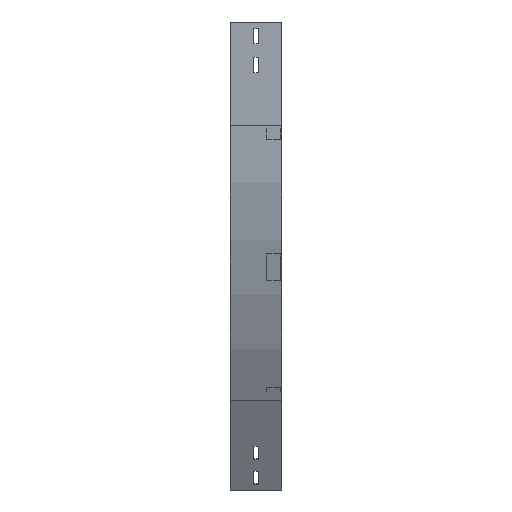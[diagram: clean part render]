
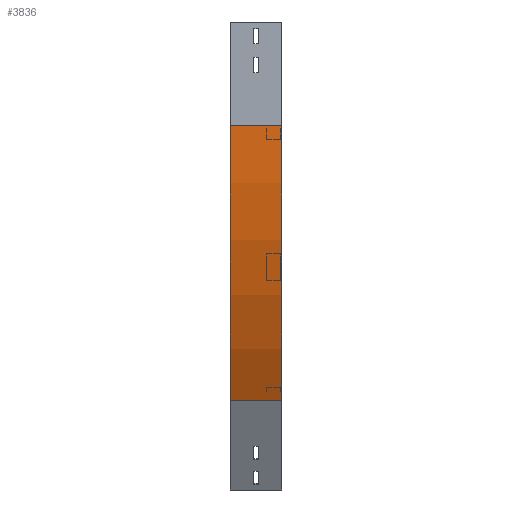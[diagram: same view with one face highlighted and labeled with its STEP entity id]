
A CAD part, left-side view. The second image highlights one B-rep face of the part: STEP entity #3836.
In plain terms, the highlighted cylindrical face has radius 800 mm (diameter 1600 mm), a partial arc.
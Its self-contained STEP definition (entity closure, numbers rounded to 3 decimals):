
#30 = CARTESIAN_POINT ( 'NONE',  ( 107.18, 75., -550. ) ) ;
#109 = VECTOR ( 'NONE', #1186, 1000. ) ;
#262 = EDGE_LOOP ( 'NONE', ( #879, #3179, #1818, #2562 ) ) ;
#455 = DIRECTION ( 'NONE',  ( -1., 0., 0. ) ) ;
#471 = CARTESIAN_POINT ( 'NONE',  ( 800., 75., -150. ) ) ;
#554 = DIRECTION ( 'NONE',  ( 0., -1., 0. ) ) ;
#598 = CARTESIAN_POINT ( 'NONE',  ( 800., 0., -150. ) ) ;
#657 = CARTESIAN_POINT ( 'NONE',  ( 0., 0., -150. ) ) ;
#658 = VERTEX_POINT ( 'NONE', #657 ) ;
#759 = VERTEX_POINT ( 'NONE', #2488 ) ;
#851 = CYLINDRICAL_SURFACE ( 'NONE', #3799, 800. ) ;
#879 = ORIENTED_EDGE ( 'NONE', *, *, #906, .F. ) ;
#906 = EDGE_CURVE ( 'NONE', #658, #759, #3051, .T. ) ;
#990 = LINE ( 'NONE', #1543, #3685 ) ;
#1072 = CARTESIAN_POINT ( 'NONE',  ( 0., 75., -150. ) ) ;
#1181 = DIRECTION ( 'NONE',  ( 0., -1., 0. ) ) ;
#1186 = DIRECTION ( 'NONE',  ( 0., -1., 0. ) ) ;
#1434 = DIRECTION ( 'NONE',  ( -1., 0., 0. ) ) ;
#1505 = CIRCLE ( 'NONE', #2680, 800. ) ;
#1543 = CARTESIAN_POINT ( 'NONE',  ( 0., 0., -150. ) ) ;
#1646 = DIRECTION ( 'NONE',  ( 0., -1., 0. ) ) ;
#1736 = AXIS2_PLACEMENT_3D ( 'NONE', #598, #1181, #1434 ) ;
#1816 = EDGE_CURVE ( 'NONE', #3130, #759, #3847, .T. ) ;
#1818 = ORIENTED_EDGE ( 'NONE', *, *, #2493, .T. ) ;
#2073 = CARTESIAN_POINT ( 'NONE',  ( 107.18, 0., -550. ) ) ;
#2110 = VERTEX_POINT ( 'NONE', #1072 ) ;
#2488 = CARTESIAN_POINT ( 'NONE',  ( 107.18, 0., -550. ) ) ;
#2493 = EDGE_CURVE ( 'NONE', #2110, #3130, #1505, .T. ) ;
#2562 = ORIENTED_EDGE ( 'NONE', *, *, #1816, .T. ) ;
#2680 = AXIS2_PLACEMENT_3D ( 'NONE', #471, #1646, #455 ) ;
#2914 = DIRECTION ( 'NONE',  ( 0., 0., -1. ) ) ;
#3051 = CIRCLE ( 'NONE', #1736, 800. ) ;
#3052 = DIRECTION ( 'NONE',  ( 0., -1., 0. ) ) ;
#3112 = EDGE_CURVE ( 'NONE', #2110, #658, #990, .T. ) ;
#3130 = VERTEX_POINT ( 'NONE', #30 ) ;
#3179 = ORIENTED_EDGE ( 'NONE', *, *, #3112, .F. ) ;
#3206 = CARTESIAN_POINT ( 'NONE',  ( 800., 0., -150. ) ) ;
#3685 = VECTOR ( 'NONE', #3052, 1000. ) ;
#3793 = FACE_OUTER_BOUND ( 'NONE', #262, .T. ) ;
#3799 = AXIS2_PLACEMENT_3D ( 'NONE', #3206, #554, #2914 ) ;
#3836 = ADVANCED_FACE ( 'NONE', ( #3793 ), #851, .T. ) ;
#3847 = LINE ( 'NONE', #2073, #109 ) ;
